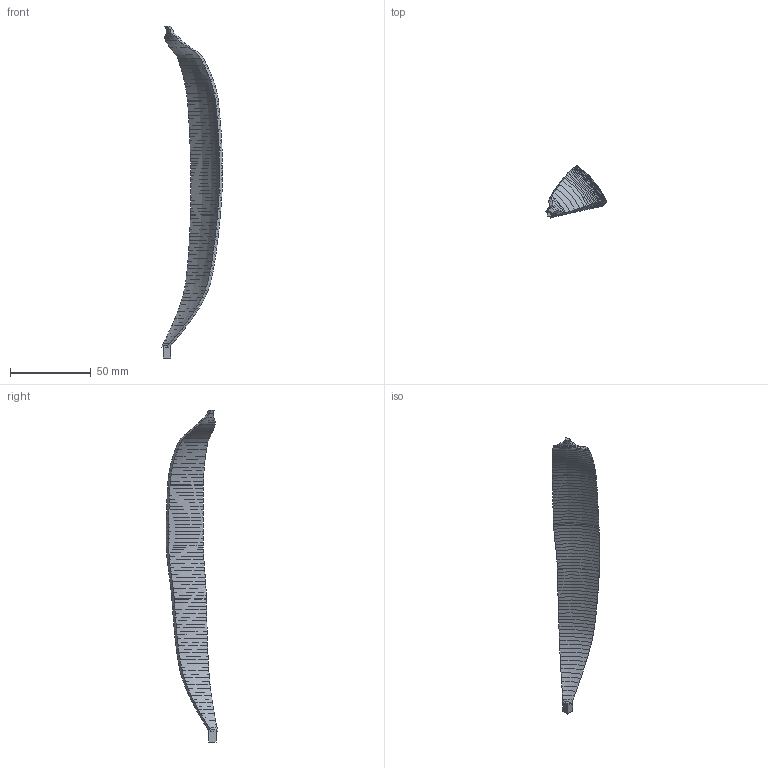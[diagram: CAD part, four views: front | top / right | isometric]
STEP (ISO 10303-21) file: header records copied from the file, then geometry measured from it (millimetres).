
FILE_DESCRIPTION(('Open CASCADE Model'),'2;1');
FILE_NAME('Open CASCADE Shape Model','2026-11-18T16:59:35',('Author'),( 'Open CASCADE'),'Open CASCADE STEP processor 7.9','Open CASCADE 7.9' ,'Unknown');
FILE_SCHEMA(('AUTOMOTIVE_DESIGN { 1 0 10303 214 1 1 1 1 }'));
Length unit declared in the file: millimetre
Products named in the file (1): Open CASCADE STEP translator 7.9 8
Bounding box: 37.81 x 32.02 x 205.6 mm (x, y, z)
Volume: 10397.3 mm3; surface area: 10663.1 mm2
Topology: 1 solids, 1 shells, 400 faces, 810 edges, 412 vertices
Faces by surface type: bspline 388, plane 12
Entity records: 33349 total; most frequent: CARTESIAN_POINT 19158, DIRECTION 1634, ORIENTED_EDGE 1620, PCURVE 1620, DEFINITIONAL_REPRESENTATION 1620, LINE 1608, VECTOR 1608, B_SPLINE_CURVE_WITH_KNOTS 822
